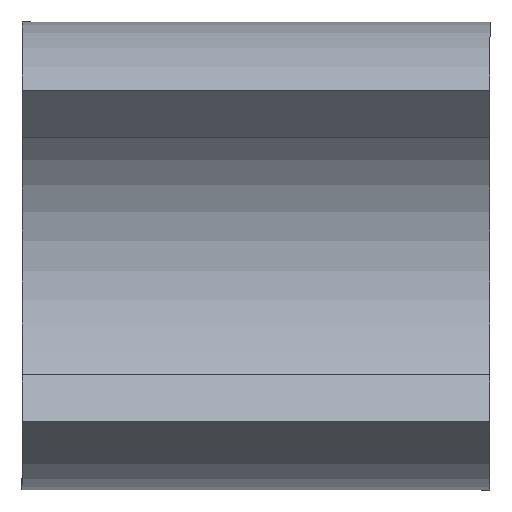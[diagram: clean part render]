
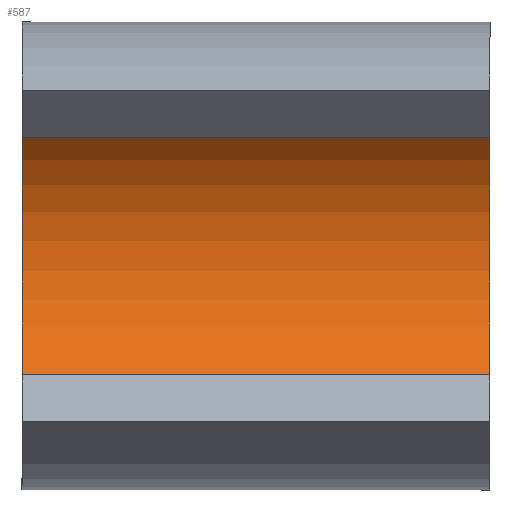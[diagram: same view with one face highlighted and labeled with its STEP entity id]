
A CAD part, left-side view. The second image highlights one B-rep face of the part: STEP entity #587.
In plain terms, the highlighted cylindrical face has radius 5.75 mm (diameter 11.5 mm), a partial arc.
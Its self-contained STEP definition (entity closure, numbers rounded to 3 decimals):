
#23 = DIRECTION ( 'NONE',  ( 0., 1., 0. ) ) ;
#56 = CARTESIAN_POINT ( 'NONE',  ( 0., 0., 0. ) ) ;
#59 = DIRECTION ( 'NONE',  ( 1., 0., 0. ) ) ;
#68 = DIRECTION ( 'NONE',  ( 0., 1., 0. ) ) ;
#72 = CARTESIAN_POINT ( 'NONE',  ( -4.066, 16., 4.066 ) ) ;
#92 = CARTESIAN_POINT ( 'NONE',  ( -4.066, 0., -4.066 ) ) ;
#116 = CARTESIAN_POINT ( 'NONE',  ( -4.066, 16., -4.066 ) ) ;
#117 = CARTESIAN_POINT ( 'NONE',  ( -4.066, 0., 4.066 ) ) ;
#128 = CARTESIAN_POINT ( 'NONE',  ( -4.066, 0., 4.066 ) ) ;
#148 = DIRECTION ( 'NONE',  ( -1., 0., 0. ) ) ;
#149 = DIRECTION ( 'NONE',  ( 0., 1., 0. ) ) ;
#160 = CARTESIAN_POINT ( 'NONE',  ( 0., 0., 0. ) ) ;
#172 = CARTESIAN_POINT ( 'NONE',  ( -4.066, 0., -4.066 ) ) ;
#173 = DIRECTION ( 'NONE',  ( 0., 1., 0. ) ) ;
#225 = CARTESIAN_POINT ( 'NONE',  ( 0., 16., 0. ) ) ;
#234 = DIRECTION ( 'NONE',  ( 0., 1., 0. ) ) ;
#235 = DIRECTION ( 'NONE',  ( 1., 0., 0. ) ) ;
#264 = EDGE_CURVE ( 'NONE', #635, #613, #525, .T. ) ;
#271 = AXIS2_PLACEMENT_3D ( 'NONE', #160, #149, #148 ) ;
#288 = AXIS2_PLACEMENT_3D ( 'NONE', #56, #68, #59 ) ;
#310 = EDGE_CURVE ( 'NONE', #596, #627, #503, .T. ) ;
#326 = AXIS2_PLACEMENT_3D ( 'NONE', #225, #234, #235 ) ;
#329 = EDGE_CURVE ( 'NONE', #635, #596, #442, .T. ) ;
#334 = EDGE_CURVE ( 'NONE', #613, #627, #422, .T. ) ;
#346 = CYLINDRICAL_SURFACE ( 'NONE', #271, 5.75 ) ;
#398 = ORIENTED_EDGE ( 'NONE', *, *, #329, .T. ) ;
#414 = FACE_OUTER_BOUND ( 'NONE', #564, .T. ) ;
#422 = LINE ( 'NONE', #172, #434 ) ;
#434 = VECTOR ( 'NONE', #173, 1000. ) ;
#442 = LINE ( 'NONE', #128, #449 ) ;
#449 = VECTOR ( 'NONE', #23, 1000. ) ;
#455 = ORIENTED_EDGE ( 'NONE', *, *, #310, .T. ) ;
#458 = ORIENTED_EDGE ( 'NONE', *, *, #264, .F. ) ;
#482 = ORIENTED_EDGE ( 'NONE', *, *, #334, .F. ) ;
#503 = CIRCLE ( 'NONE', #326, 5.75 ) ;
#525 = CIRCLE ( 'NONE', #288, 5.75 ) ;
#564 = EDGE_LOOP ( 'NONE', ( #455, #482, #458, #398 ) ) ;
#587 = ADVANCED_FACE ( 'NONE', ( #414 ), #346, .F. ) ;
#596 = VERTEX_POINT ( 'NONE', #72 ) ;
#613 = VERTEX_POINT ( 'NONE', #92 ) ;
#627 = VERTEX_POINT ( 'NONE', #116 ) ;
#635 = VERTEX_POINT ( 'NONE', #117 ) ;
